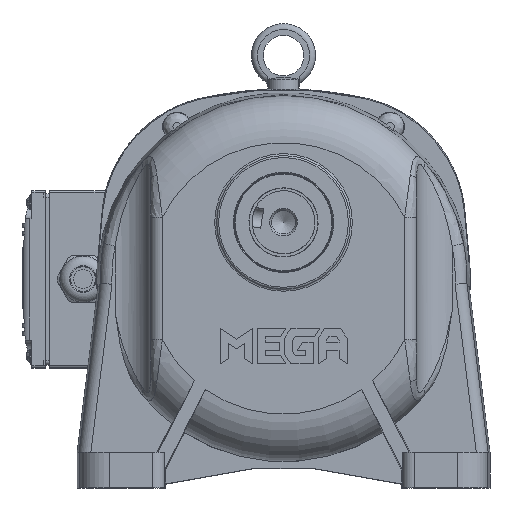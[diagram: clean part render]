
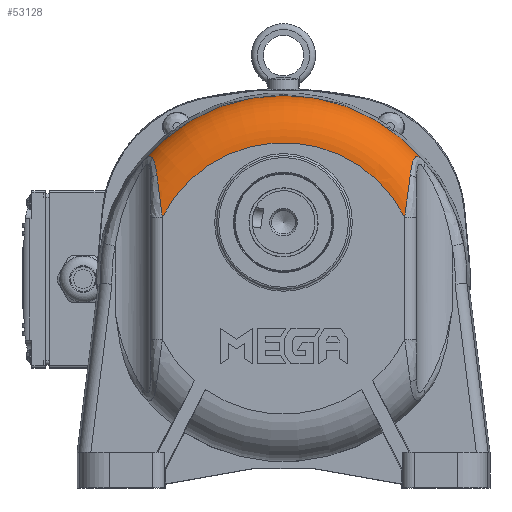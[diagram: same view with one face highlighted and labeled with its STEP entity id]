
A CAD part, top view. The second image highlights one B-rep face of the part: STEP entity #53128.
In plain terms, the highlighted toroidal (fillet/blend) face has major radius 69.054 mm and minor radius 24 mm.
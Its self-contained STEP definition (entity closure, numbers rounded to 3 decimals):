
#801=TOROIDAL_SURFACE('',#57577,69.054,24.);
#1260=B_SPLINE_CURVE_WITH_KNOTS('',3,(#85072,#85073,#85074,#85075,#85076),
 .UNSPECIFIED.,.F.,.F.,(4,1,4),(-1.959,-0.839,0.),
 .UNSPECIFIED.);
#1261=B_SPLINE_CURVE_WITH_KNOTS('',3,(#85080,#85081,#85082,#85083,#85084,
#85085),.UNSPECIFIED.,.F.,.F.,(4,1,1,4),(-1.959,-1.399,
-0.839,0.),.UNSPECIFIED.);
#1262=B_SPLINE_CURVE_WITH_KNOTS('',3,(#85087,#85088,#85089,#85090,#85091,
#85092,#85093,#85094,#85095,#85096),.UNSPECIFIED.,.F.,.F.,(4,1,1,1,1,1,
1,4),(-1.905,-1.633,-1.361,-1.089,
-0.816,-0.544,-0.272,0.),
 .UNSPECIFIED.);
#1263=B_SPLINE_CURVE_WITH_KNOTS('',3,(#85099,#85100,#85101,#85102,#85103,
#85104,#85105,#85106,#85107),.UNSPECIFIED.,.F.,.F.,(4,1,1,1,1,1,4),(-1.905,
-1.633,-1.361,-1.089,-0.817,
-0.544,0.),.UNSPECIFIED.);
#11708=FACE_OUTER_BOUND('',#15154,.T.);
#15154=EDGE_LOOP('',(#38313,#38314,#38315,#38316,#38317,#38318));
#18757=CIRCLE('',#57578,69.054);
#18758=CIRCLE('',#57579,93.046);
#22801=VERTEX_POINT('',#85070);
#22802=VERTEX_POINT('',#85071);
#22803=VERTEX_POINT('',#85077);
#22804=VERTEX_POINT('',#85079);
#22805=VERTEX_POINT('',#85086);
#22806=VERTEX_POINT('',#85097);
#28466=EDGE_CURVE('',#22801,#22802,#1260,.T.);
#28467=EDGE_CURVE('',#22801,#22803,#18757,.T.);
#28468=EDGE_CURVE('',#22804,#22803,#1261,.T.);
#28469=EDGE_CURVE('',#22805,#22804,#1262,.T.);
#28470=EDGE_CURVE('',#22806,#22805,#18758,.F.);
#28471=EDGE_CURVE('',#22802,#22806,#1263,.T.);
#38313=ORIENTED_EDGE('',*,*,#28466,.F.);
#38314=ORIENTED_EDGE('',*,*,#28467,.T.);
#38315=ORIENTED_EDGE('',*,*,#28468,.F.);
#38316=ORIENTED_EDGE('',*,*,#28469,.F.);
#38317=ORIENTED_EDGE('',*,*,#28470,.F.);
#38318=ORIENTED_EDGE('',*,*,#28471,.F.);
#53128=ADVANCED_FACE('',(#11708),#801,.T.);
#57577=AXIS2_PLACEMENT_3D('',#85069,#67432,#67433);
#57578=AXIS2_PLACEMENT_3D('',#85078,#67434,#67435);
#57579=AXIS2_PLACEMENT_3D('',#85098,#67436,#67437);
#67432=DIRECTION('center_axis',(0.,0.,-1.));
#67433=DIRECTION('ref_axis',(-1.,0.,0.));
#67434=DIRECTION('center_axis',(0.,0.,-1.));
#67435=DIRECTION('ref_axis',(-1.,0.,0.));
#67436=DIRECTION('center_axis',(0.,0.,1.));
#67437=DIRECTION('ref_axis',(-1.,0.,0.));
#85069=CARTESIAN_POINT('Origin',(-0.74,-16.274,24.));
#85070=CARTESIAN_POINT('',(-62.372,14.869,48.));
#85071=CARTESIAN_POINT('',(-65.158,36.264,43.442));
#85072=CARTESIAN_POINT('Ctrl Pts',(-62.372,14.869,48.));
#85073=CARTESIAN_POINT('Ctrl Pts',(-62.873,18.853,48.));
#85074=CARTESIAN_POINT('Ctrl Pts',(-63.82,26.042,47.466));
#85075=CARTESIAN_POINT('Ctrl Pts',(-64.774,33.316,45.006));
#85076=CARTESIAN_POINT('Ctrl Pts',(-65.158,36.264,43.442));
#85077=CARTESIAN_POINT('',(60.893,14.869,48.));
#85078=CARTESIAN_POINT('Origin',(-0.74,-16.274,48.));
#85079=CARTESIAN_POINT('',(63.679,36.264,43.442));
#85080=CARTESIAN_POINT('Ctrl Pts',(63.679,36.264,43.442));
#85081=CARTESIAN_POINT('Ctrl Pts',(63.422,34.298,44.485));
#85082=CARTESIAN_POINT('Ctrl Pts',(62.886,30.202,46.121));
#85083=CARTESIAN_POINT('Ctrl Pts',(61.933,22.959,47.708));
#85084=CARTESIAN_POINT('Ctrl Pts',(61.268,17.857,48.));
#85085=CARTESIAN_POINT('Ctrl Pts',(60.893,14.869,48.));
#85086=CARTESIAN_POINT('',(70.434,43.658,24.628));
#85087=CARTESIAN_POINT('Ctrl Pts',(70.434,43.658,24.628));
#85088=CARTESIAN_POINT('Ctrl Pts',(69.947,44.204,25.422));
#85089=CARTESIAN_POINT('Ctrl Pts',(68.96,45.159,27.163));
#85090=CARTESIAN_POINT('Ctrl Pts',(67.5,45.881,30.291));
#85091=CARTESIAN_POINT('Ctrl Pts',(66.215,45.502,33.73));
#85092=CARTESIAN_POINT('Ctrl Pts',(65.251,43.982,36.954));
#85093=CARTESIAN_POINT('Ctrl Pts',(64.572,41.738,39.637));
#85094=CARTESIAN_POINT('Ctrl Pts',(64.073,39.122,41.784));
#85095=CARTESIAN_POINT('Ctrl Pts',(63.803,37.22,42.934));
#85096=CARTESIAN_POINT('Ctrl Pts',(63.679,36.264,43.442));
#85097=CARTESIAN_POINT('',(-71.914,43.658,24.628));
#85098=CARTESIAN_POINT('Origin',(-0.74,-16.274,24.628));
#85099=CARTESIAN_POINT('Ctrl Pts',(-65.158,36.264,43.442));
#85100=CARTESIAN_POINT('Ctrl Pts',(-65.283,37.22,42.934));
#85101=CARTESIAN_POINT('Ctrl Pts',(-65.552,39.118,41.786));
#85102=CARTESIAN_POINT('Ctrl Pts',(-66.05,41.734,39.642));
#85103=CARTESIAN_POINT('Ctrl Pts',(-66.729,43.975,36.961));
#85104=CARTESIAN_POINT('Ctrl Pts',(-67.687,45.497,33.752));
#85105=CARTESIAN_POINT('Ctrl Pts',(-69.41,46.006,29.137));
#85106=CARTESIAN_POINT('Ctrl Pts',(-70.939,44.75,26.216));
#85107=CARTESIAN_POINT('Ctrl Pts',(-71.914,43.658,24.628));
